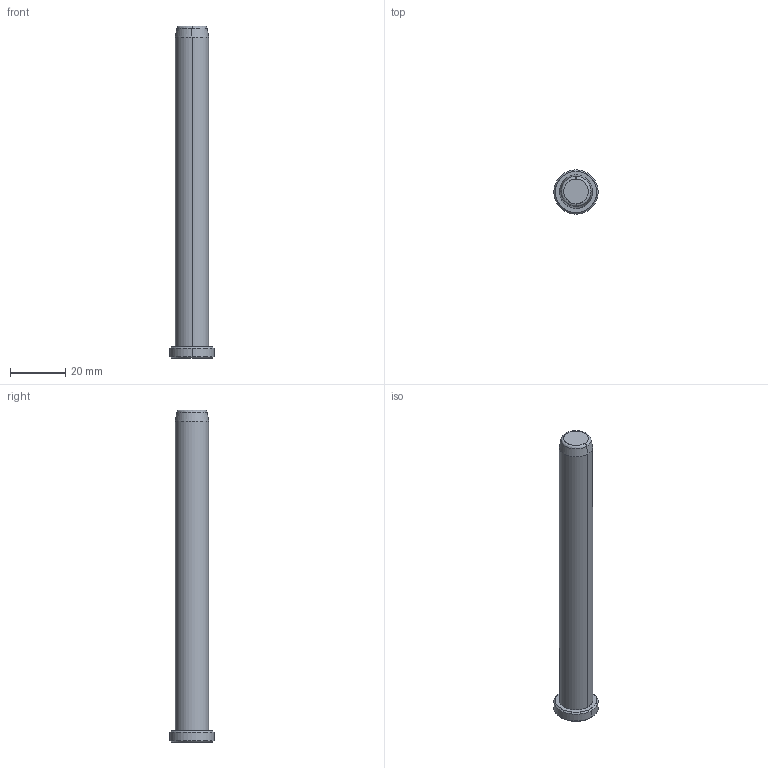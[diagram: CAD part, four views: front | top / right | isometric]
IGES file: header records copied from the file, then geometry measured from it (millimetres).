
Start section: START RECORD GO HERE.
Global section: file name: B81812120.igs; native system: DASSAULT SYSTEMES CATIA V5 R20 - www.3ds.com; preprocessor: CATIA Version 5 Release 20 ; author: Utente; organization: NB04-ASUS; date: 20200419.172434; units: millimetre
Bounding box: 16 x 16 x 120 mm (x, y, z)
Surface area: 4904.8 mm2 (no closed solid volume)
Topology: 0 solids, 0 shells, 17 faces, 68 edges, 68 vertices
Faces by surface type: revolution 14, plane 3
